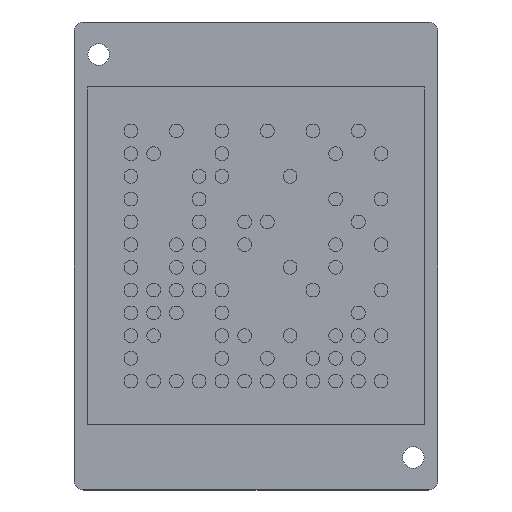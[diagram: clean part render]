
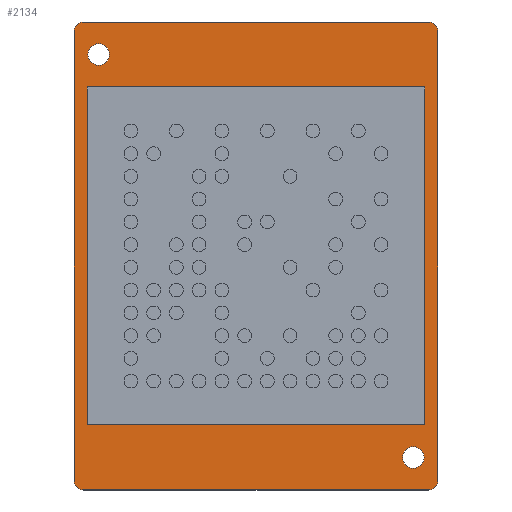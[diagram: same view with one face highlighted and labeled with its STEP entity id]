
A CAD part, top view. The second image highlights one B-rep face of the part: STEP entity #2134.
In plain terms, the highlighted planar face has unit normal (0, 0, 1).
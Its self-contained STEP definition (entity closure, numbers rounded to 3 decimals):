
#166=FACE_BOUND('',#494,.T.);
#167=FACE_BOUND('',#495,.T.);
#168=FACE_BOUND('',#496,.T.);
#245=PLANE('',#2322);
#330=FACE_OUTER_BOUND('',#493,.T.);
#493=EDGE_LOOP('',(#1539,#1540,#1541,#1542,#1543,#1544,#1545,#1546));
#494=EDGE_LOOP('',(#1547,#1548,#1549,#1550));
#495=EDGE_LOOP('',(#1551));
#496=EDGE_LOOP('',(#1552));
#734=LINE('',#3398,#837);
#737=LINE('',#3404,#840);
#738=LINE('',#3408,#841);
#739=LINE('',#3412,#842);
#740=LINE('',#3416,#843);
#741=LINE('',#3418,#844);
#742=LINE('',#3420,#845);
#743=LINE('',#3421,#846);
#837=VECTOR('',#2651,10.);
#840=VECTOR('',#2656,10.);
#841=VECTOR('',#2659,10.);
#842=VECTOR('',#2662,10.);
#843=VECTOR('',#2665,10.);
#844=VECTOR('',#2666,10.);
#845=VECTOR('',#2667,10.);
#846=VECTOR('',#2668,10.);
#938=CIRCLE('',#2319,1.5);
#940=CIRCLE('',#2323,1.5);
#941=CIRCLE('',#2324,1.5);
#942=CIRCLE('',#2325,1.5);
#943=CIRCLE('',#2326,1.65);
#944=CIRCLE('',#2327,1.65);
#1096=VERTEX_POINT('',#3388);
#1097=VERTEX_POINT('',#3389);
#1100=VERTEX_POINT('',#3397);
#1102=VERTEX_POINT('',#3403);
#1103=VERTEX_POINT('',#3405);
#1104=VERTEX_POINT('',#3407);
#1105=VERTEX_POINT('',#3409);
#1106=VERTEX_POINT('',#3411);
#1107=VERTEX_POINT('',#3414);
#1108=VERTEX_POINT('',#3415);
#1109=VERTEX_POINT('',#3417);
#1110=VERTEX_POINT('',#3419);
#1111=VERTEX_POINT('',#3422);
#1112=VERTEX_POINT('',#3424);
#1270=EDGE_CURVE('',#1096,#1097,#938,.T.);
#1274=EDGE_CURVE('',#1100,#1097,#734,.T.);
#1277=EDGE_CURVE('',#1096,#1102,#737,.T.);
#1278=EDGE_CURVE('',#1103,#1102,#940,.T.);
#1279=EDGE_CURVE('',#1103,#1104,#738,.T.);
#1280=EDGE_CURVE('',#1105,#1104,#941,.T.);
#1281=EDGE_CURVE('',#1105,#1106,#739,.T.);
#1282=EDGE_CURVE('',#1100,#1106,#942,.T.);
#1283=EDGE_CURVE('',#1107,#1108,#740,.T.);
#1284=EDGE_CURVE('',#1108,#1109,#741,.T.);
#1285=EDGE_CURVE('',#1109,#1110,#742,.T.);
#1286=EDGE_CURVE('',#1110,#1107,#743,.T.);
#1287=EDGE_CURVE('',#1111,#1111,#943,.T.);
#1288=EDGE_CURVE('',#1112,#1112,#944,.T.);
#1539=ORIENTED_EDGE('',*,*,#1270,.F.);
#1540=ORIENTED_EDGE('',*,*,#1277,.T.);
#1541=ORIENTED_EDGE('',*,*,#1278,.F.);
#1542=ORIENTED_EDGE('',*,*,#1279,.T.);
#1543=ORIENTED_EDGE('',*,*,#1280,.F.);
#1544=ORIENTED_EDGE('',*,*,#1281,.T.);
#1545=ORIENTED_EDGE('',*,*,#1282,.F.);
#1546=ORIENTED_EDGE('',*,*,#1274,.T.);
#1547=ORIENTED_EDGE('',*,*,#1283,.T.);
#1548=ORIENTED_EDGE('',*,*,#1284,.T.);
#1549=ORIENTED_EDGE('',*,*,#1285,.T.);
#1550=ORIENTED_EDGE('',*,*,#1286,.T.);
#1551=ORIENTED_EDGE('',*,*,#1287,.T.);
#1552=ORIENTED_EDGE('',*,*,#1288,.T.);
#2134=ADVANCED_FACE('',(#330,#166,#167,#168),#245,.T.);
#2319=AXIS2_PLACEMENT_3D('',#3390,#2643,#2644);
#2322=AXIS2_PLACEMENT_3D('',#3402,#2654,#2655);
#2323=AXIS2_PLACEMENT_3D('',#3406,#2657,#2658);
#2324=AXIS2_PLACEMENT_3D('',#3410,#2660,#2661);
#2325=AXIS2_PLACEMENT_3D('',#3413,#2663,#2664);
#2326=AXIS2_PLACEMENT_3D('',#3423,#2669,#2670);
#2327=AXIS2_PLACEMENT_3D('',#3425,#2671,#2672);
#2643=DIRECTION('center_axis',(0.,0.,-1.));
#2644=DIRECTION('ref_axis',(-0.707,0.707,0.));
#2651=DIRECTION('',(-1.,0.,0.));
#2654=DIRECTION('center_axis',(0.,0.,1.));
#2655=DIRECTION('ref_axis',(1.,0.,0.));
#2656=DIRECTION('',(0.,-1.,0.));
#2657=DIRECTION('center_axis',(0.,0.,-1.));
#2658=DIRECTION('ref_axis',(-0.707,-0.707,0.));
#2659=DIRECTION('',(1.,0.,0.));
#2660=DIRECTION('center_axis',(0.,0.,-1.));
#2661=DIRECTION('ref_axis',(0.707,-0.707,0.));
#2662=DIRECTION('',(0.,1.,0.));
#2663=DIRECTION('center_axis',(0.,0.,-1.));
#2664=DIRECTION('ref_axis',(0.707,0.707,0.));
#2665=DIRECTION('',(0.,-1.,0.));
#2666=DIRECTION('',(-1.,0.,0.));
#2667=DIRECTION('',(0.,1.,0.));
#2668=DIRECTION('',(1.,0.,0.));
#2669=DIRECTION('center_axis',(0.,0.,-1.));
#2670=DIRECTION('ref_axis',(-1.,0.,0.));
#2671=DIRECTION('center_axis',(0.,0.,-1.));
#2672=DIRECTION('ref_axis',(-1.,0.,0.));
#3388=CARTESIAN_POINT('',(-28.,34.5,2.));
#3389=CARTESIAN_POINT('',(-26.5,36.,2.));
#3390=CARTESIAN_POINT('Origin',(-26.5,34.5,2.));
#3397=CARTESIAN_POINT('',(26.5,36.,2.));
#3398=CARTESIAN_POINT('',(28.,36.,2.));
#3402=CARTESIAN_POINT('Origin',(0.,0.,
2.));
#3403=CARTESIAN_POINT('',(-28.,-34.5,2.));
#3404=CARTESIAN_POINT('',(-28.,36.,2.));
#3405=CARTESIAN_POINT('',(-26.5,-36.,2.));
#3406=CARTESIAN_POINT('Origin',(-26.5,-34.5,2.));
#3407=CARTESIAN_POINT('',(26.5,-36.,2.));
#3408=CARTESIAN_POINT('',(-28.,-36.,2.));
#3409=CARTESIAN_POINT('',(28.,-34.5,2.));
#3410=CARTESIAN_POINT('Origin',(26.5,-34.5,2.));
#3411=CARTESIAN_POINT('',(28.,34.5,2.));
#3412=CARTESIAN_POINT('',(28.,-36.,2.));
#3413=CARTESIAN_POINT('Origin',(26.5,34.5,2.));
#3414=CARTESIAN_POINT('',(26.,26.,2.));
#3415=CARTESIAN_POINT('',(26.,-26.,2.));
#3416=CARTESIAN_POINT('',(26.,13.,2.));
#3417=CARTESIAN_POINT('',(-26.,-26.,2.));
#3418=CARTESIAN_POINT('',(13.,-26.,2.));
#3419=CARTESIAN_POINT('',(-26.,26.,2.));
#3420=CARTESIAN_POINT('',(-26.,-13.,2.));
#3421=CARTESIAN_POINT('',(-13.,26.,2.));
#3422=CARTESIAN_POINT('',(-22.55,31.,2.));
#3423=CARTESIAN_POINT('Origin',(-24.2,31.,2.));
#3424=CARTESIAN_POINT('',(25.85,-31.,2.));
#3425=CARTESIAN_POINT('Origin',(24.2,-31.,2.));
